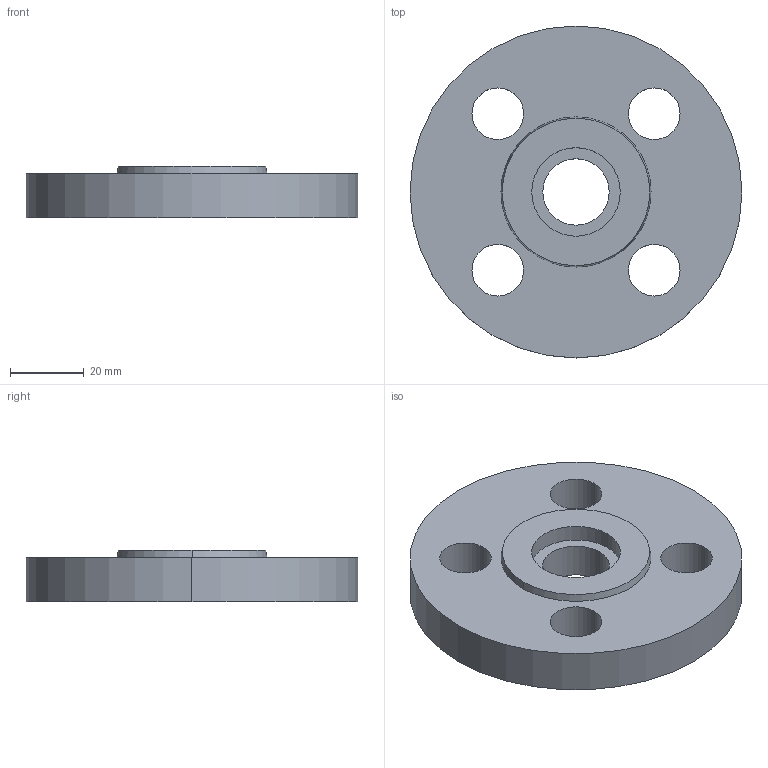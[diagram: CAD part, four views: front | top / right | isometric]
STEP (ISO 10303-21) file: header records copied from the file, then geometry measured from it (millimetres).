
FILE_DESCRIPTION (( 'STEP AP214' ), '1' );
FILE_NAME ('PN40 DN10 Type 01 - Type G Face.STEP', '2018-12-29T05:25:41', ( '' ), ( '' ), 'SwSTEP 2.0', 'SolidWorks 2019', '' );
FILE_SCHEMA (( 'AUTOMOTIVE_DESIGN' ));
Length unit declared in the file: millimetre
Products named in the file (1): PN40 DN10 Type 01 - Type G Face
Bounding box: 90 x 90 x 14 mm (x, y, z)
Volume: 67056.3 mm3; surface area: 17576.3 mm2
Topology: 1 solids, 1 shells, 20 faces, 48 edges, 32 vertices
Faces by surface type: cylinder 14, plane 4, cone 2
Entity records: 658 total; most frequent: DIRECTION 122, CARTESIAN_POINT 101, ORIENTED_EDGE 96, AXIS2_PLACEMENT_3D 53, EDGE_CURVE 48, CIRCLE 32, VERTEX_POINT 32, EDGE_LOOP 32
